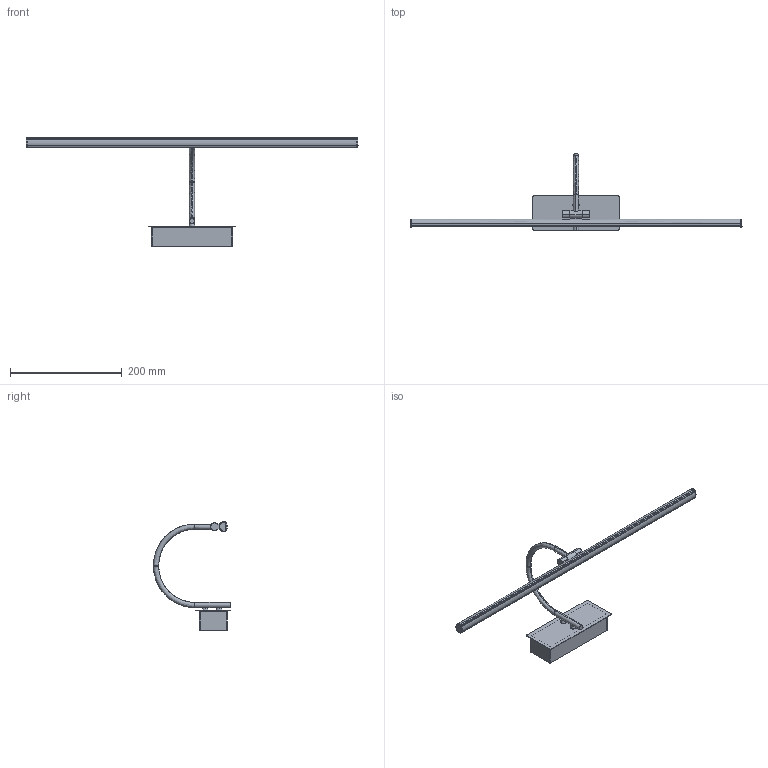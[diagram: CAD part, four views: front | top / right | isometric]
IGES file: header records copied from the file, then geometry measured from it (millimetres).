
Start section: SolidWorks IGES file using analytic representation for surfaces
Global section: file name: Z:\Modele 3D_WWW\_KOLEKCJE_WWW\GIOTTO-LED\GIOTTO-LED-M-8170\GIOTTO-LED-M-8170.IGS; native system: SolidWorks 2020; preprocessor: SolidWorks 2020; author: gabriela.tworek; date: 210401.212406; units: millimetre
Bounding box: 594.2 x 137.65 x 194.66 mm (x, y, z)
Surface area: 116980.5 mm2 (no closed solid volume)
Topology: 0 solids, 0 shells, 174 faces, 1606 edges, 1592 vertices
Faces by surface type: revolution 97, bspline 77
